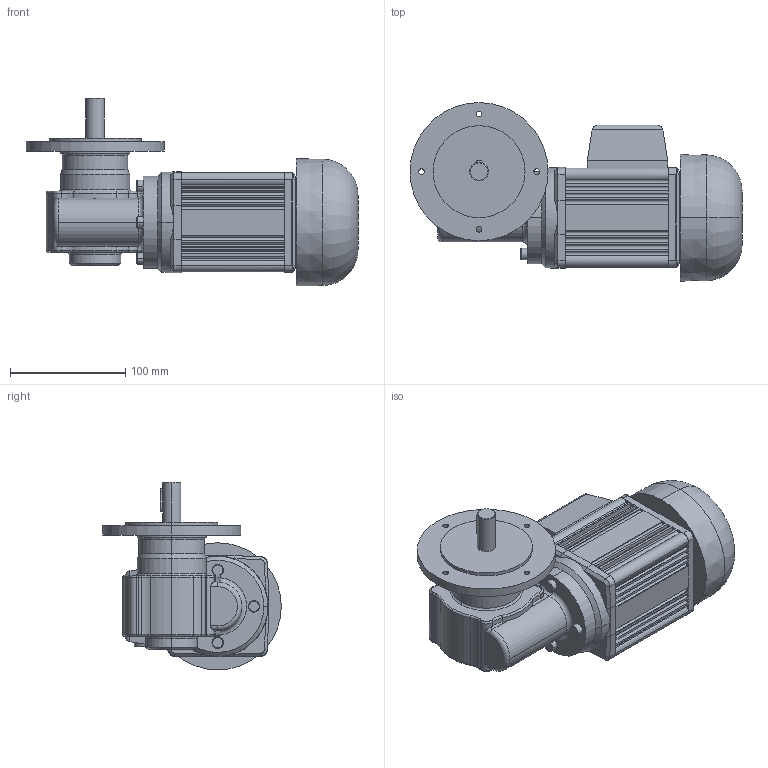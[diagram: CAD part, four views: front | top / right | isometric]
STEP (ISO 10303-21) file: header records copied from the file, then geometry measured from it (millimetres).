
FILE_DESCRIPTION(('OneSpaceDesigner STEP Export'),'2;1');
FILE_NAME('OEG51_GF140_F.stp','2008-06-19T 7:51:59',(''),(''),'OneSpace Designer STEP processor (Jan. 2003) for AP214(CD)(Solid Model)','OneSpace Designer 12.01D 09-Jul-2004 (C) CoCreate Software GmbH','');
FILE_SCHEMA(('AUTOMOTIVE_DESIGN_CC2 {1 2 10303 214 -1 1 5 1}'));
Length unit declared in the file: millimetre
Products named in the file (2): OEG51_GF140_F
Assembly tree (1 placements, depth 2):
  OEG51_GF140_F
    OEG51_GF140_F
Bounding box: 288.5 x 155.25 x 163.25 mm (x, y, z)
Volume: 2101681.5 mm3; surface area: 172028.7 mm2
Topology: 1 solids, 1 shells, 460 faces, 1180 edges, 721 vertices
Faces by surface type: plane 195, cylinder 156, torus 62, bspline 25, cone 22
Entity records: 17269 total; most frequent: CARTESIAN_POINT 7140, ORIENTED_EDGE 2360, DIRECTION 1837, EDGE_CURVE 1180, VERTEX_POINT 721, AXIS2_PLACEMENT_3D 624, VECTOR 589, LINE 589
